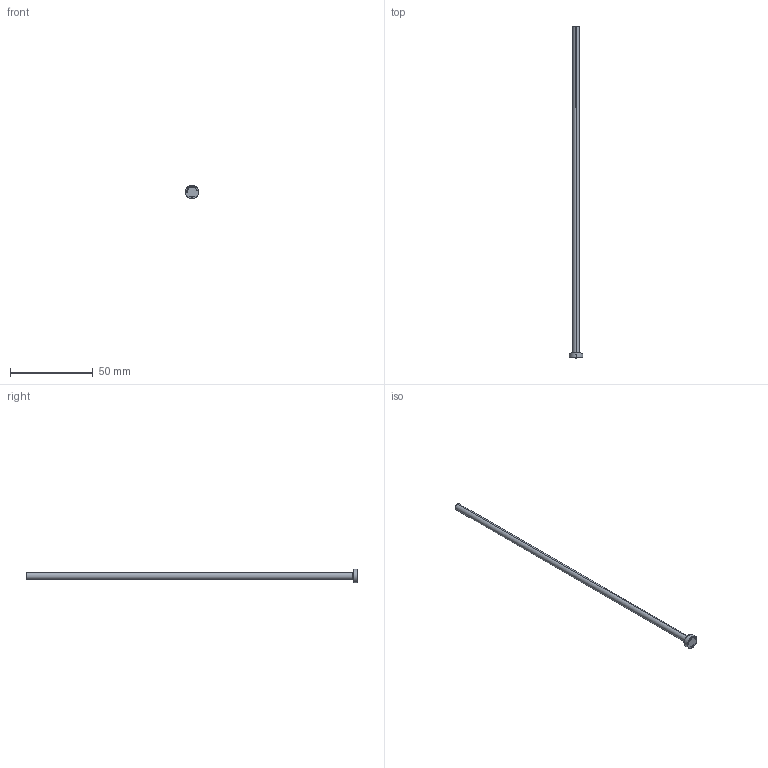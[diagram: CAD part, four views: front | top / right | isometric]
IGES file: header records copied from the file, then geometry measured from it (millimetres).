
Start section: SolidWorks IGES file using analytic representation for surfaces
Global section: file name: G:\MCL\Projetos\Matripeças\Pinos Extradores A DIN 1530\PA04,0200.IGS; native system: SolidWorks 2013; preprocessor: SolidWorks 2013; author: Cleonir; date: 130225.135436; units: millimetre
Bounding box: 8 x 200 x 8 mm (x, y, z)
Surface area: 2663.9 mm2 (no closed solid volume)
Topology: 0 solids, 0 shells, 291 faces, 2085 edges, 2085 vertices
Faces by surface type: bspline 279, revolution 12
